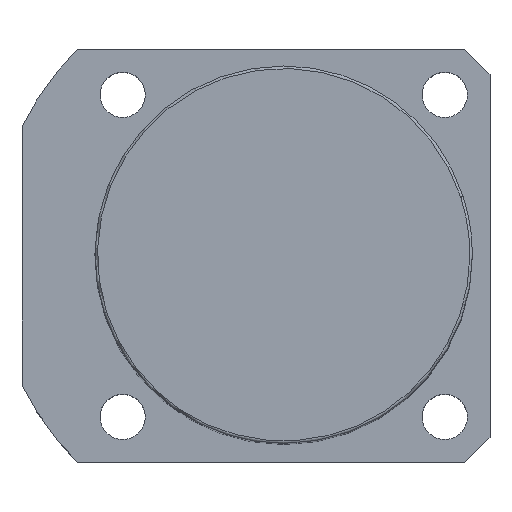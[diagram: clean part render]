
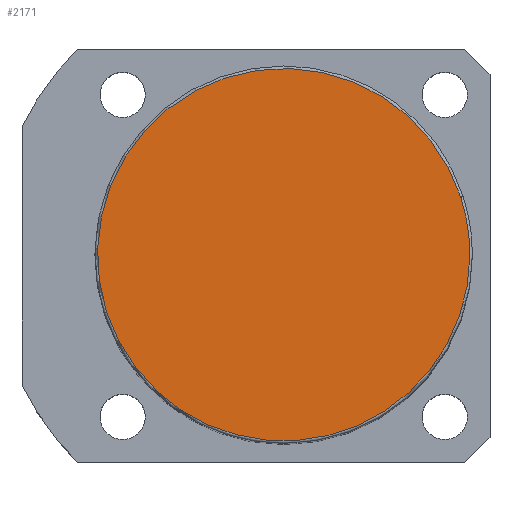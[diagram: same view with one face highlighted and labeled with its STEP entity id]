
A CAD part, top view. The second image highlights one B-rep face of the part: STEP entity #2171.
In plain terms, the highlighted planar face has unit normal (0, 0, 1).
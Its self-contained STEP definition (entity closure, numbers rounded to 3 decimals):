
#2137=CARTESIAN_POINT('',(37.0,0.0,148.0));
#2138=VERTEX_POINT('',#2137);
#2139=CARTESIAN_POINT('',(35.189,11.434,148.0));
#2140=VERTEX_POINT('',#2139);
#2141=CARTESIAN_POINT('',(0.0,0.0,148.0));
#2142=DIRECTION('',(0.0,0.0,1.0));
#2143=DIRECTION('',(1.0,0.0,0.0));
#2144=AXIS2_PLACEMENT_3D('',#2141,#2142,#2143);
#2145=CIRCLE('',#2144,37.0);
#2146=EDGE_CURVE('no 2008',#2138,#2140,#2145,.T.);
#2147=ORIENTED_EDGE('',*,*,#2146,.T.);
#2148=CARTESIAN_POINT('',(-35.189,-11.434,148.0));
#2149=VERTEX_POINT('',#2148);
#2150=CARTESIAN_POINT('',(0.0,0.0,148.0));
#2151=DIRECTION('',(0.0,0.0,1.0));
#2152=DIRECTION('',(1.0,0.0,0.0));
#2153=AXIS2_PLACEMENT_3D('',#2150,#2151,#2152);
#2154=CIRCLE('',#2153,37.0);
#2155=EDGE_CURVE('no 2014',#2140,#2149,#2154,.T.);
#2156=ORIENTED_EDGE('',*,*,#2155,.T.);
#2157=CARTESIAN_POINT('',(0.0,0.0,148.0));
#2158=DIRECTION('',(0.0,0.0,1.0));
#2159=DIRECTION('',(1.0,0.0,0.0));
#2160=AXIS2_PLACEMENT_3D('',#2157,#2158,#2159);
#2161=CIRCLE('',#2160,37.0);
#2162=EDGE_CURVE('no 2018',#2149,#2138,#2161,.T.);
#2163=ORIENTED_EDGE('',*,*,#2162,.T.);
#2164=EDGE_LOOP('',(#2147,#2156,#2163));
#2165=FACE_OUTER_BOUND('',#2164,.T.);
#2166=CARTESIAN_POINT('',(0.0,0.0,148.0));
#2167=DIRECTION('',(0.0,0.0,1.0));
#2168=DIRECTION('',(1.0,0.0,0.0));
#2169=AXIS2_PLACEMENT_3D('',#2166,#2167,#2168);
#2170=PLANE('',#2169);
#2171=ADVANCED_FACE('no 1999',(#2165),#2170,.T.);
